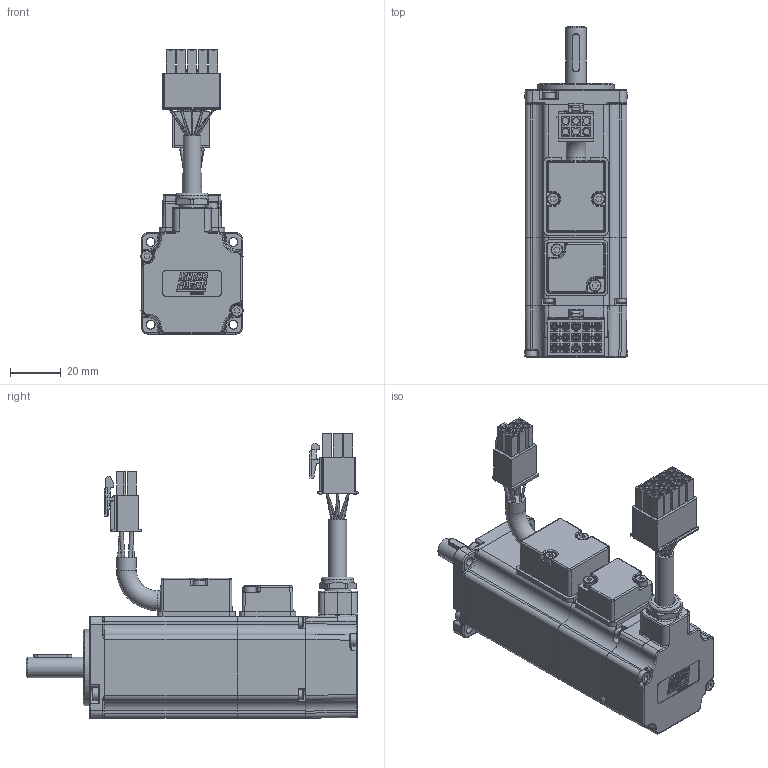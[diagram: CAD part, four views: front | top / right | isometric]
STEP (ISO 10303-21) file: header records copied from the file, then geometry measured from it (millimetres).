
FILE_DESCRIPTION(/* description */ ('Unknown'),/* implementation_level */ '2;1');
FILE_NAME(/* name */ 'Q0C913 TC4-40 1B FRENO VUOTO',/* time_stamp */ '2026-02-03T08:53:36+01:00',/* author */ ('Unknown'),/* organization */ ('Unknown'),/* preprocessor_version */ 'ST-DEVELOPER v19.4',/* originating_system */ 'Solid Edge',/* authorisation */ 'Unknown');
FILE_SCHEMA (('AUTOMOTIVE_DESIGN {1 0 10303 214 3 1 1}'));
Products named in the file (25): Q0C913 TC4-40 1B FRENO VUOTO; Albero TC4-40 H 30 M1 FRENO; 005113000100; 005911000170; 003103040184; 005123005450; 005007000100_0.5; 005911000274; 001799000503; 005911000598; 003108020616; 003303000709; 005453000452_D7,8; 003108010016_curvo; 003251040602; 005911000185; 003151003114; 001799000635; 005911000276; 005911003776; 003303000713; 003108010154; 005603001004; 003303000025; 003107003254
Assembly tree (32 placements, depth 3):
  Q0C913 TC4-40 1B FRENO VUOTO
    Albero TC4-40 H 30 M1 FRENO
    005113000100
    005911000170  x4
    003103040184
    005123005450
    005007000100_0.5
    005911000274
    001799000503
    005911000598  x2
    003108020616
      003303000709
      005453000452_D7,8
      003108010016_curvo
    003251040602
    005911000185  x4
    003151003114
    001799000635
    005911000276  x2
    005911003776
    003303000713
    003108010154
    005603001004
    003303000025
    003107003254
Bounding box: 40.2 x 130.5 x 111.95 mm (x, y, z)
Volume: 73882.9 mm3; surface area: 73438.5 mm2
Topology: 34 solids, 34 shells, 2730 faces, 6907 edges, 4434 vertices
Faces by surface type: plane 1640, cylinder 523, bspline 197, cone 157, torus 157, sphere 56
Full cylindrical faces by diameter (mm): 0.314 x1, 0.75 x1, 1.567 x8, 1.6 x1, 1.82 x15, 2 x4, 2.013 x25, 2.3 x4, 2.459 x4, 2.5 x16, 2.6 x21, 2.7 x4, 3 x2, 3.2 x1, 3.297 x2, 3.5 x2, 3.8 x6, 4 x4, 4.7 x10, 5 x1, 6 x1, 6.5 x1, 6.8 x1, 7 x1, 7.25 x1, 7.4 x1, 7.8 x2, 8 x3, 9.5 x1, 9.99 x1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
Entity records: 90300 total; most frequent: CARTESIAN_POINT 22422, ORIENTED_EDGE 12346, DIRECTION 11523, EDGE_CURVE 6173, LINE 4183, VECTOR 4183, VERTEX_POINT 4159, AXIS2_PLACEMENT_3D 3670
